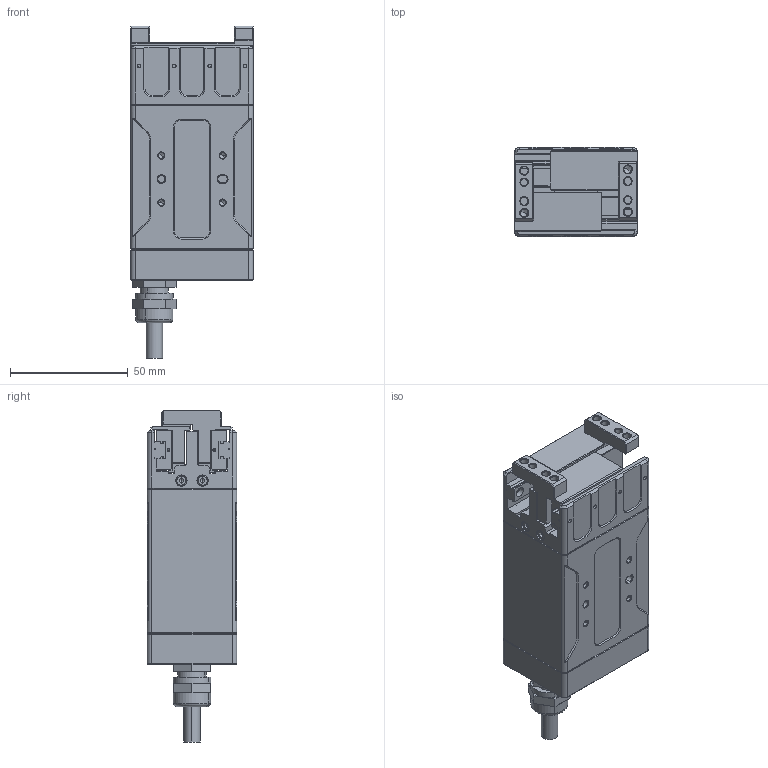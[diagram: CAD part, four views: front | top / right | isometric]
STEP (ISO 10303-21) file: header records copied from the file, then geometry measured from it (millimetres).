
FILE_DESCRIPTION(('CATIA V5 STEP Exchange'),'2;1');
FILE_NAME('E:\工作文件\EFG-30\客户图纸\EFG-30模型图\20220815\EFG-30-LMH-20220815.stp','2022-08-15T01:25:40+00:00',('none'),('none'),'CATIA Version 5 Release 20 GA (IN-10)','CATIA V5 STEP AP203','none');
FILE_SCHEMA(('CONFIG_CONTROL_DESIGN'));
Length unit declared in the file: millimetre
Products named in the file (1): EFG-30 V1.0
Assembly tree (3 placements, depth 2):
  EFG-30 V1.0
    #58
    #23708  x2
Bounding box: 52 x 38 x 141 mm (x, y, z)
Volume: 182031.8 mm3; surface area: 45350.5 mm2
Topology: 3 solids, 27 shells, 1101 faces, 2754 edges, 1712 vertices
Faces by surface type: plane 554, cylinder 322, cone 177, torus 18, bspline 16, extrusion 14
Entity records: 28214 total; most frequent: CARTESIAN_POINT 7326, ORIENTED_EDGE 4586, DIRECTION 3495, EDGE_CURVE 2293, VERTEX_POINT 1465, VECTOR 1392, LINE 1378, AXIS2_PLACEMENT_3D 1377
